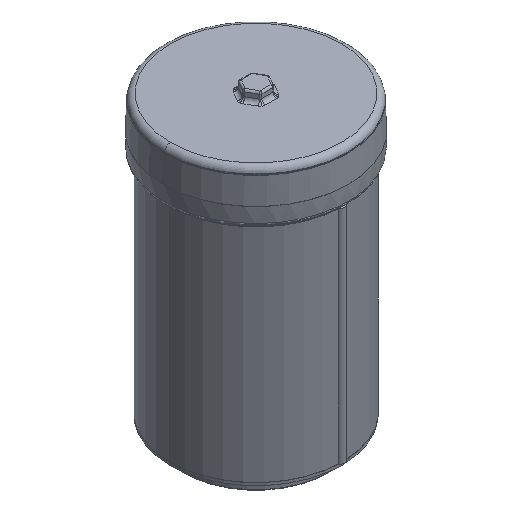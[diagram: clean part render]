
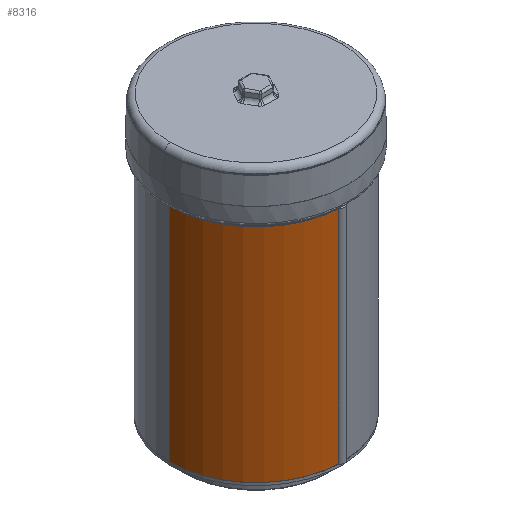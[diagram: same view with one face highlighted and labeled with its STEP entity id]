
A CAD part, isometric view. The second image highlights one B-rep face of the part: STEP entity #8316.
In plain terms, the highlighted cylindrical face has radius 71.857 mm (diameter 143.713 mm), a partial arc.
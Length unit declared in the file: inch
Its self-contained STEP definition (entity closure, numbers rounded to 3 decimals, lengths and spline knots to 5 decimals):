
#218 = VERTEX_POINT ( 'NONE', #35936 ) ;
#426 = DIRECTION ( 'NONE',  ( 0., 0., -1. ) ) ;
#3313 = CARTESIAN_POINT ( 'NONE',  ( 0., 0., 8.98 ) ) ;
#3518 = CIRCLE ( 'NONE', #15202, 2.829 ) ;
#7156 = CARTESIAN_POINT ( 'NONE',  ( 0., 0., 8.98 ) ) ;
#8281 = AXIS2_PLACEMENT_3D ( 'NONE', #3313, #426, #24203 ) ;
#8316 = ADVANCED_FACE ( 'NONE', ( #29392 ), #29199, .T. ) ;
#8552 = EDGE_LOOP ( 'NONE', ( #17738, #28127, #29393, #30457 ) ) ;
#10160 = DIRECTION ( 'NONE',  ( 1., 0., 0. ) ) ;
#11326 = EDGE_CURVE ( 'NONE', #20174, #34020, #16280, .T. ) ;
#11357 = LINE ( 'NONE', #15394, #26142 ) ;
#12158 = DIRECTION ( 'NONE',  ( 0., 0., 1. ) ) ;
#15202 = AXIS2_PLACEMENT_3D ( 'NONE', #30080, #12158, #33090 ) ;
#15394 = CARTESIAN_POINT ( 'NONE',  ( -2.829, 0., 8.98 ) ) ;
#15474 = DIRECTION ( 'NONE',  ( 0., 0., 1. ) ) ;
#15845 = EDGE_CURVE ( 'NONE', #20174, #218, #11357, .T. ) ;
#16280 = CIRCLE ( 'NONE', #16531, 2.829 ) ;
#16531 = AXIS2_PLACEMENT_3D ( 'NONE', #7156, #28083, #10160 ) ;
#16564 = CARTESIAN_POINT ( 'NONE',  ( -0.12869, -2.82607, 1.73 ) ) ;
#17604 = VECTOR ( 'NONE', #15474, 39.37008 ) ;
#17639 = LINE ( 'NONE', #21646, #17604 ) ;
#17738 = ORIENTED_EDGE ( 'NONE', *, *, #11326, .F. ) ;
#20174 = VERTEX_POINT ( 'NONE', #26515 ) ;
#20852 = EDGE_CURVE ( 'NONE', #29867, #34020, #17639, .T. ) ;
#21646 = CARTESIAN_POINT ( 'NONE',  ( -0.12869, -2.82607, 5.355 ) ) ;
#24110 = EDGE_CURVE ( 'NONE', #218, #29867, #3518, .T. ) ;
#24203 = DIRECTION ( 'NONE',  ( -1., 0., 0. ) ) ;
#26142 = VECTOR ( 'NONE', #36458, 39.37008 ) ;
#26515 = CARTESIAN_POINT ( 'NONE',  ( -2.829, 0., 8.98 ) ) ;
#28083 = DIRECTION ( 'NONE',  ( 0., 0., 1. ) ) ;
#28127 = ORIENTED_EDGE ( 'NONE', *, *, #15845, .T. ) ;
#29199 = CYLINDRICAL_SURFACE ( 'NONE', #8281, 2.829 ) ;
#29261 = CARTESIAN_POINT ( 'NONE',  ( -0.12869, -2.82607, 8.98 ) ) ;
#29392 = FACE_OUTER_BOUND ( 'NONE', #8552, .T. ) ;
#29393 = ORIENTED_EDGE ( 'NONE', *, *, #24110, .T. ) ;
#29867 = VERTEX_POINT ( 'NONE', #16564 ) ;
#30080 = CARTESIAN_POINT ( 'NONE',  ( 0., 0., 1.73 ) ) ;
#30457 = ORIENTED_EDGE ( 'NONE', *, *, #20852, .T. ) ;
#33090 = DIRECTION ( 'NONE',  ( 1., 0., 0. ) ) ;
#34020 = VERTEX_POINT ( 'NONE', #29261 ) ;
#35936 = CARTESIAN_POINT ( 'NONE',  ( -2.829, 0., 1.73 ) ) ;
#36458 = DIRECTION ( 'NONE',  ( 0., 0., -1. ) ) ;
